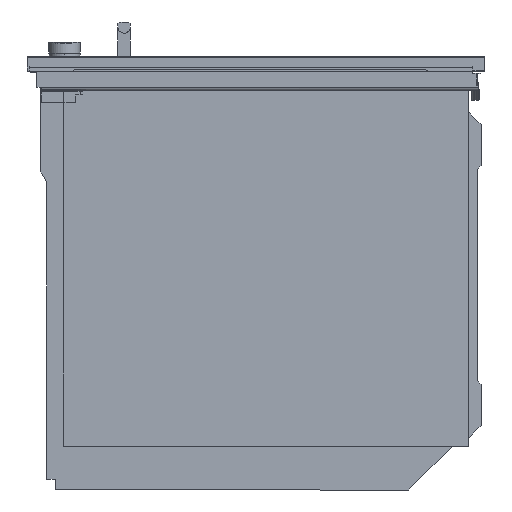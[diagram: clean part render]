
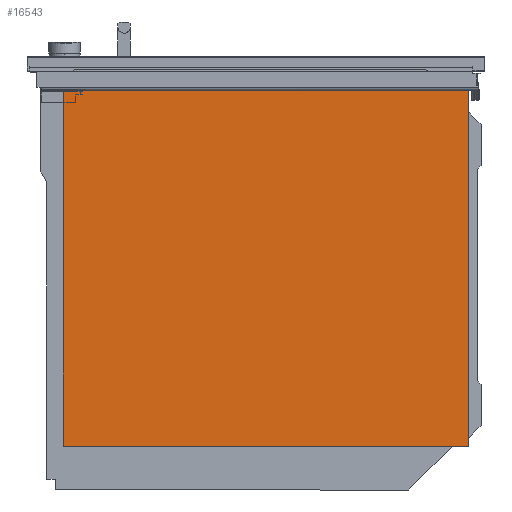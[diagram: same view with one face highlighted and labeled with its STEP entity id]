
A CAD part, left-side view. The second image highlights one B-rep face of the part: STEP entity #16543.
In plain terms, the highlighted planar face has unit normal (-1, 0, 0).
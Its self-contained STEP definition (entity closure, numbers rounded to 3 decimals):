
#74 = AXIS2_PLACEMENT_3D ( 'NONE', #10965, #12310, #5293 ) ;
#87 = CARTESIAN_POINT ( 'NONE',  ( -274.55, 20.293, 105.655 ) ) ;
#882 = VECTOR ( 'NONE', #11668, 1000. ) ;
#2095 = FACE_OUTER_BOUND ( 'NONE', #14493, .T. ) ;
#2152 = EDGE_CURVE ( 'NONE', #15193, #11983, #12790, .T. ) ;
#2520 = LINE ( 'NONE', #10768, #17156 ) ;
#3853 = PLANE ( 'NONE',  #74 ) ;
#5095 = DIRECTION ( 'NONE',  ( 0., 0., -1. ) ) ;
#5225 = VECTOR ( 'NONE', #17078, 1000. ) ;
#5278 = DIRECTION ( 'NONE',  ( 0., 0., 1. ) ) ;
#5293 = DIRECTION ( 'NONE',  ( 0., 0., -1. ) ) ;
#6339 = ORIENTED_EDGE ( 'NONE', *, *, #17399, .F. ) ;
#6685 = CARTESIAN_POINT ( 'NONE',  ( -274.55, 547.843, 569.743 ) ) ;
#6693 = EDGE_CURVE ( 'NONE', #16772, #13838, #15555, .T. ) ;
#7431 = CARTESIAN_POINT ( 'NONE',  ( -274.55, 547.843, 569.743 ) ) ;
#7572 = CARTESIAN_POINT ( 'NONE',  ( -274.55, 19.793, 569.743 ) ) ;
#8509 = CARTESIAN_POINT ( 'NONE',  ( -274.55, 19.793, 105.655 ) ) ;
#8761 = LINE ( 'NONE', #6685, #12535 ) ;
#10768 = CARTESIAN_POINT ( 'NONE',  ( -274.55, 19.793, 569.743 ) ) ;
#10965 = CARTESIAN_POINT ( 'NONE',  ( -274.55, 0., 0. ) ) ;
#11668 = DIRECTION ( 'NONE',  ( 0., -1., 0. ) ) ;
#11892 = CARTESIAN_POINT ( 'NONE',  ( -274.55, 547.843, 105.655 ) ) ;
#11983 = VERTEX_POINT ( 'NONE', #11892 ) ;
#12310 = DIRECTION ( 'NONE',  ( 1., 0., 0. ) ) ;
#12525 = ORIENTED_EDGE ( 'NONE', *, *, #6693, .F. ) ;
#12535 = VECTOR ( 'NONE', #5278, 1000. ) ;
#12778 = ORIENTED_EDGE ( 'NONE', *, *, #2152, .F. ) ;
#12790 = LINE ( 'NONE', #87, #5225 ) ;
#13838 = VERTEX_POINT ( 'NONE', #7572 ) ;
#14155 = CARTESIAN_POINT ( 'NONE',  ( -274.55, 547.843, 569.743 ) ) ;
#14493 = EDGE_LOOP ( 'NONE', ( #12525, #6339, #12778, #14658 ) ) ;
#14658 = ORIENTED_EDGE ( 'NONE', *, *, #17223, .F. ) ;
#15193 = VERTEX_POINT ( 'NONE', #8509 ) ;
#15555 = LINE ( 'NONE', #7431, #882 ) ;
#16543 = ADVANCED_FACE ( 'NONE', ( #2095 ), #3853, .F. ) ;
#16772 = VERTEX_POINT ( 'NONE', #14155 ) ;
#17078 = DIRECTION ( 'NONE',  ( 0., 1., 0. ) ) ;
#17156 = VECTOR ( 'NONE', #5095, 1000. ) ;
#17223 = EDGE_CURVE ( 'NONE', #13838, #15193, #2520, .T. ) ;
#17399 = EDGE_CURVE ( 'NONE', #11983, #16772, #8761, .T. ) ;
